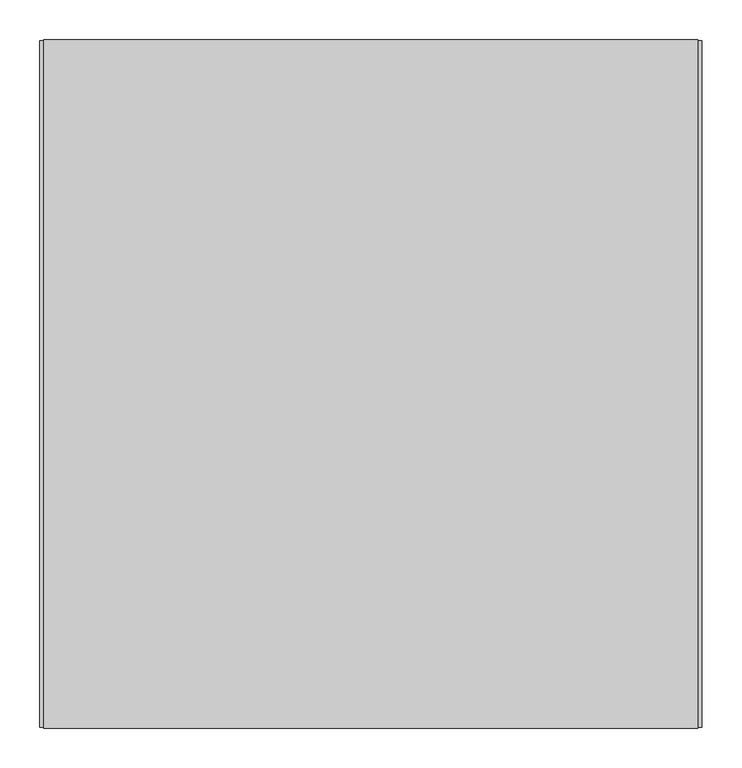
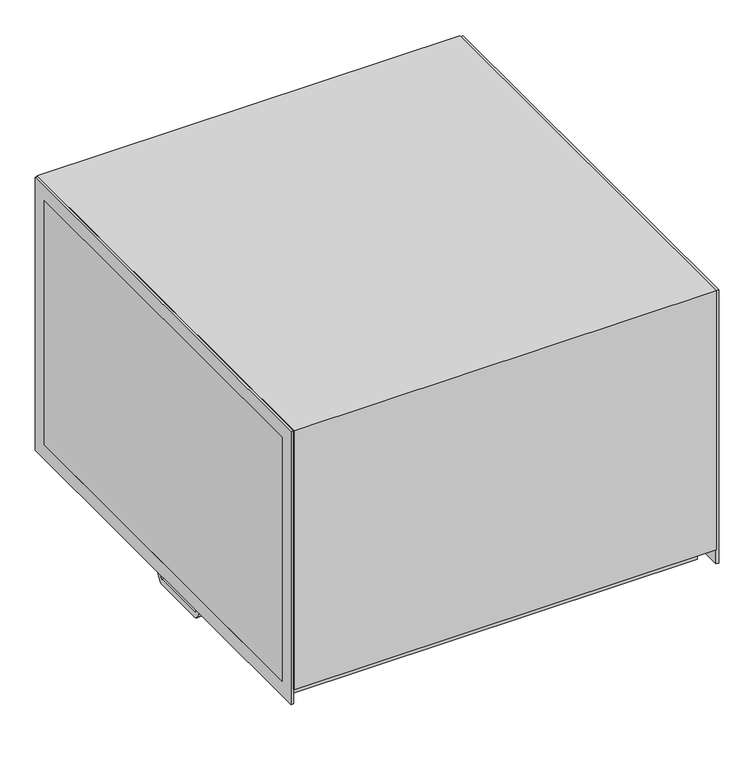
"""IFC4 building model written with IfcOpenShell, lengths in millimetres: unitary equipment geometry, VE-Wentylator-ParaForma-Harmann-DRBI_EC-Nawiewny : 080/50/8500TEC."""

import ifcopenshell
import ifcopenshell.guid

model = None  # the IFC model being written
_history = None  # IfcOwnerHistory: only IFC2X3 demands one
_inside = {}  # id of a spatial element -> (the spatial element, [elements in it])
_under = {}  # id of a project, library or spatial element -> (it, [spatial elements below it])
_declared = {}  # id of a project -> (the project, [libraries it declares])
_typed = {}  # id of a type object -> (the type object, [elements of that type])
_made_of = {}  # id of a material, layer set ... -> (it, [elements and type objects made of it])


def new_model(schema):
    """Start an empty IFC model of exactly this schema.

    Asked for "IFC4X3", IfcOpenShell would pick the latest addendum, in which some entities
    have other attributes; the version numbers below select the first issue.
    IFC2X3 requires an IfcOwnerHistory on every rooted entity: one is made here for all.
    """
    global model, _history
    if schema == "IFC4X3":
        model = ifcopenshell.file(schema_version=(4, 3, 0, 0))
    else:
        model = ifcopenshell.file(schema=schema)
    _inside.clear()
    _under.clear()
    _declared.clear()
    _typed.clear()
    _made_of.clear()
    _history = None
    if model.schema == "IFC2X3":
        org = make("IfcOrganization", Name="unknown")
        user = make(
            "IfcPersonAndOrganization",
            ThePerson=make("IfcPerson", FamilyName="unknown"),
            TheOrganization=org,
        )
        app = make(
            "IfcApplication",
            ApplicationDeveloper=org,
            Version="unknown",
            ApplicationFullName="unknown",
            ApplicationIdentifier="unknown",
        )
        _history = make(
            "IfcOwnerHistory",
            OwningUser=user,
            OwningApplication=app,
            ChangeAction="ADDED",
            CreationDate=0,
        )
    return model


def make(cls, **values):
    """One entity of the class cls with the attributes given. An attribute that is None is left unset."""
    return model.create_entity(
        cls, **{name: value for name, value in values.items() if value is not None}
    )


def rooted(cls, **values):
    """An entity with a GlobalId (a new one), such as an element, a storey or a relation."""
    return make(cls, GlobalId=ifcopenshell.guid.new(), OwnerHistory=_history, **values)


def si_unit(unit_type, name, prefix=None):
    """IfcSIUnit, for example si_unit("LENGTHUNIT", "METRE", prefix="MILLI")."""
    return make("IfcSIUnit", UnitType=unit_type, Prefix=prefix, Name=name)


def assignment(units):
    """IfcUnitAssignment: the units of a project."""
    return None if units is None else make("IfcUnitAssignment", Units=units)


def point(xyz):
    """IfcCartesianPoint."""
    return None if xyz is None else make("IfcCartesianPoint", Coordinates=xyz)


def direction(xyz):
    """IfcDirection."""
    return None if xyz is None else make("IfcDirection", DirectionRatios=xyz)


def frame(location, z_axis=None, x_axis=None):
    """IfcAxis2Placement3D, a coordinate frame: its origin and axes. An axis left out is left unset."""
    return make(
        "IfcAxis2Placement3D",
        Location=point(location),
        Axis=direction(z_axis),
        RefDirection=direction(x_axis),
    )


def frame_2d(location, x_axis=None):
    """IfcAxis2Placement2D, a coordinate frame in the plane: its origin and x axis."""
    return make(
        "IfcAxis2Placement2D", Location=point(location), RefDirection=direction(x_axis)
    )


def origin():
    """The frame at (0, 0, 0) with its axes left unset."""
    return frame((0.0, 0.0, 0.0))


def place(relative_to, where):
    """IfcLocalPlacement: puts the frame where relative to a parent placement (None: the world)."""
    return make(
        "IfcLocalPlacement", PlacementRelTo=relative_to, RelativePlacement=where
    )


def context(
    kind, dimensions, precision=None, world=None, true_north=None, identifier=None
):
    """IfcGeometricRepresentationContext, for example the 3D "Model" context."""
    return make(
        "IfcGeometricRepresentationContext",
        ContextIdentifier=identifier,
        ContextType=kind,
        CoordinateSpaceDimension=dimensions,
        Precision=precision,
        WorldCoordinateSystem=world,
        TrueNorth=true_north,
    )


def project(units=None, contexts=None):
    """IfcProject with its units and contexts."""
    return rooted(
        "IfcProject",
        Name="project",
        RepresentationContexts=contexts,
        UnitsInContext=assignment(units),
    )


def spatial(cls, under=None, at=None, **own):
    """A site, building, storey or space (cls), placed at a placement, below another one or the project."""
    s = rooted(cls, ObjectPlacement=at, **own)
    if under is not None:
        _under.setdefault(under.id(), (under, []))[1].append(s)
    return s


def polyline(points):
    """IfcPolyline through the points."""
    return make("IfcPolyline", Points=[point(p) for p in points])


def circle_curve(where, radius):
    """IfcCircle in the frame where."""
    return make("IfcCircle", Position=where, Radius=radius)


def trimmed(basis, trim1, trim2, sense, master):
    """IfcTrimmedCurve: the piece of a basis curve between two trims."""
    return make(
        "IfcTrimmedCurve",
        BasisCurve=basis,
        Trim1=trim1,
        Trim2=trim2,
        SenseAgreement=sense,
        MasterRepresentation=master,
    )


def segment(curve, same_sense, transition):
    """IfcCompositeCurveSegment."""
    return make(
        "IfcCompositeCurveSegment",
        Transition=transition,
        SameSense=same_sense,
        ParentCurve=curve,
    )


def composite_curve(segments, self_intersect=None):
    """IfcCompositeCurve: segments joined end to end."""
    return make("IfcCompositeCurve", Segments=segments, SelfIntersect=self_intersect)


def outline(outer, holes=None, kind="AREA"):
    """IfcArbitraryClosedProfileDef: a profile drawn as a closed curve; with holes, ...WithVoids."""
    if holes is None:
        return make("IfcArbitraryClosedProfileDef", ProfileType=kind, OuterCurve=outer)
    return make(
        "IfcArbitraryProfileDefWithVoids",
        ProfileType=kind,
        OuterCurve=outer,
        InnerCurves=holes,
    )


def extrude(swept, where, along, depth):
    """IfcExtrudedAreaSolid: the profile swept, set in the frame where, extruded along a direction by depth."""
    return make(
        "IfcExtrudedAreaSolid",
        SweptArea=swept,
        Position=where,
        ExtrudedDirection=direction(along),
        Depth=depth,
    )


def faces_of(points, faces, orient=None, outer=None):
    """IfcFace entities. A face is a list of loops; a loop is a list of indices into points, from 0.

    orient and outer hold one flag for each loop. By default every Orientation is true, the
    first loop of a face is its IfcFaceOuterBound and the others are IfcFaceBound.
    """
    made = []
    for i, loops in enumerate(faces):
        bounds = []
        for j, loop in enumerate(loops):
            is_outer = j == 0 if outer is None else outer[i][j]
            bounds.append(
                make(
                    "IfcFaceOuterBound" if is_outer else "IfcFaceBound",
                    Bound=make("IfcPolyLoop", Polygon=[points[k] for k in loop]),
                    Orientation=True if orient is None else orient[i][j],
                )
            )
        made.append(make("IfcFace", Bounds=bounds))
    return made


def faceted_brep(points, faces, orient=None, outer=None, voids=None):
    """IfcFacetedBrep: a solid bounded by flat faces; with voids (closed shells), ...WithVoids."""
    shared = [point(p) for p in points]
    hull = make("IfcClosedShell", CfsFaces=faces_of(shared, faces, orient, outer))
    if voids is None:
        return make("IfcFacetedBrep", Outer=hull)
    return make(
        "IfcFacetedBrepWithVoids",
        Outer=hull,
        Voids=[
            make(cls, CfsFaces=faces_of(shared, fs, o, b)) for cls, fs, o, b in voids
        ],
    )


def shape(context_of_items, identifier, shape_type, items):
    """IfcShapeRepresentation: the items that make up one representation, for example the "Body"."""
    return make(
        "IfcShapeRepresentation",
        ContextOfItems=context_of_items,
        RepresentationIdentifier=identifier,
        RepresentationType=shape_type,
        Items=items,
    )


def source(mapping_origin, context_of_items, identifier, shape_type, items):
    """IfcRepresentationMap: a shape defined once, which mapped items show again and again."""
    return make(
        "IfcRepresentationMap",
        MappingOrigin=mapping_origin,
        MappedRepresentation=shape(context_of_items, identifier, shape_type, items),
    )


def transform(
    local_origin,
    x_axis=None,
    y_axis=None,
    z_axis=None,
    scale=None,
    scale2=None,
    scale3=None,
    uniform=True,
):
    """IfcCartesianTransformationOperator3D, or its non-uniform kind. x_axis, y_axis, z_axis: its Axis1, 2, 3."""
    if uniform:
        return make(
            "IfcCartesianTransformationOperator3D",
            Axis1=direction(x_axis),
            Axis2=direction(y_axis),
            LocalOrigin=point(local_origin),
            Scale=scale,
            Axis3=direction(z_axis),
        )
    return make(
        "IfcCartesianTransformationOperator3DnonUniform",
        Axis1=direction(x_axis),
        Axis2=direction(y_axis),
        LocalOrigin=point(local_origin),
        Scale=scale,
        Axis3=direction(z_axis),
        Scale2=scale2,
        Scale3=scale3,
    )


def mapped(mapping_source, mapping_target):
    """IfcMappedItem: shows the shape of a source again, moved by a transform."""
    return make(
        "IfcMappedItem", MappingSource=mapping_source, MappingTarget=mapping_target
    )


def made_of(thing, what):
    """Note that an element or type object is made of a material, layer set ...; save() writes the relation."""
    if what is not None:
        _made_of.setdefault(what.id(), (what, []))[1].append(thing)
    return thing


def element(
    cls,
    number,
    at=None,
    inside=None,
    cuts=None,
    type_object=None,
    material=None,
    context=None,
    identifier="Body",
    shape_type=None,
    held_by="IfcProductDefinitionShape",
    body=None,
    shapes=None,
    **own,
):
    """One element of the class cls, such as IfcWall. Its Tag is "e" and its number.

    at: its placement. inside: the storey or other place that contains it. cuts: it is an
    opening in that element (IfcRelVoidsElement). A single representation is given by context,
    identifier, shape_type and body (its items); several are given by shapes. held_by: the class
    of the entity that holds the representations. save() writes the other relations.
    """
    e = rooted(cls, Tag="e%d" % number, ObjectPlacement=at, **own)
    if body is not None:
        shapes = [shape(context, identifier, shape_type, body)]
    if shapes is not None:
        e.Representation = make(held_by, Representations=shapes)
    if inside is not None:
        _inside.setdefault(inside.id(), (inside, []))[1].append(e)
    if cuts is not None:
        rooted(
            "IfcRelVoidsElement", RelatingBuildingElement=cuts, RelatedOpeningElement=e
        )
    if type_object is not None:
        _typed.setdefault(type_object.id(), (type_object, []))[1].append(e)
    return made_of(e, material)


def aggregate(whole, parts):
    """IfcRelAggregates: a whole, such as a stair, and the parts it consists of."""
    return rooted("IfcRelAggregates", RelatingObject=whole, RelatedObjects=parts)


def save(model, path):
    """Write the relations noted so far, then the file.

    IfcRelAggregates (storeys below a building ...), IfcRelContainedInSpatialStructure (elements
    in a storey), IfcRelDefinesByType, IfcRelAssociatesMaterial and IfcRelDeclares: one each for
    every whole, place, type object, material and project.
    """
    for whole, parts in _under.values():
        aggregate(whole, parts)
    for where, things in _inside.values():
        rooted(
            "IfcRelContainedInSpatialStructure",
            RelatedElements=things,
            RelatingStructure=where,
        )
    for kind, things in _typed.values():
        rooted("IfcRelDefinesByType", RelatedObjects=things, RelatingType=kind)
    for what, things in _made_of.values():
        rooted("IfcRelAssociatesMaterial", RelatedObjects=things, RelatingMaterial=what)
    for by, libraries in _declared.values():
        rooted("IfcRelDeclares", RelatingContext=by, RelatedDefinitions=libraries)
    model.write(path)


def unitary_equipment_093180e0(model_context):
    return source(origin(), model_context, "Body", "SolidModel", [
        faceted_brep([(-402.7, -395.5, -285.5), (-402.7, -395.5, -250.0), (-402.7, 395.5, -250.0), (-402.7, 395.5, -285.5), (393.3, -395.5, -285.5), (393.3, 395.5, -285.5), (393.3, 395.5, -250.0), (393.3, -395.5, -250.0), (-410.0, -431.0, -250.0), (-410.0, -431.0, 281.0), (-410.0, 431.0, 281.0), (-410.0, 431.0, -250.0), (-410.0, 400.0, -250.0), (-410.0, 400.0, 250.0), (-410.0, -400.0, 250.0), (-410.0, -400.0, -250.0), (410.0, 431.0, -250.0), (410.0, 431.0, 281.0), (410.0, -431.0, 281.0), (410.0, -431.0, -250.0), (410.0, -400.0, -250.0), (410.0, -400.0, 250.0), (410.0, 400.0, 250.0), (410.0, 400.0, -250.0), (-415.0, -400.0, -250.0), (-415.0, 400.0, -250.0), (415.0, 400.0, -250.0), (415.0, -400.0, -250.0), (-415.0, -400.0, 250.0), (-415.0, 400.0, 250.0), (415.0, 400.0, 250.0), (415.0, -400.0, 250.0)], [[[0, 1, 2, 3]], [[4, 5, 6, 7]], [[1, 0, 4, 7]], [[3, 2, 6, 5]], [[0, 3, 5, 4]], [[8, 9, 10, 11, 12, 13, 14, 15]], [[16, 17, 18, 19, 20, 21, 22, 23]], [[9, 8, 19, 18]], [[10, 9, 18, 17]], [[11, 10, 17, 16]], [[19, 8, 15, 24, 25, 12, 11, 16, 23, 26, 27, 20], [2, 1, 7, 6]], [[24, 28, 29, 25]], [[28, 24, 15, 14]], [[29, 28, 14, 13]], [[25, 29, 13, 12]], [[27, 26, 30, 31]], [[27, 31, 21, 20]], [[31, 30, 22, 21]], [[30, 26, 23, 22]]]),
        extrude(outline(polyline([(-430.0, -280.0), (-430.0, 280.0), (430.0, 280.0), (430.0, -280.0), (-430.0, -280.0)]), holes=[polyline([(-400.0, -250.0), (400.0, -250.0), (400.0, 250.0), (-400.0, 250.0), (-400.0, -250.0)])]), frame((410.0, 0.0, 0.0), z_axis=(1.0, 0.0, 0.0), x_axis=(0.0, 1.0, 0.0)), (0.0, 0.0, 1.0), 5.0),
        extrude(outline(polyline([(-430.0, -280.0), (-430.0, 280.0), (430.0, 280.0), (430.0, -280.0), (-430.0, -280.0)]), holes=[polyline([(-400.0, -250.0), (400.0, -250.0), (400.0, 250.0), (-400.0, 250.0), (-400.0, -250.0)])]), frame((-415.0, 0.0, 0.0), z_axis=(1.0, 0.0, 0.0), x_axis=(0.0, 1.0, 0.0)), (0.0, 0.0, 1.0), 5.0),
        extrude(outline(composite_curve([segment(polyline([(-85.0, -298.5), (-85.0, -285.5), (-60.0, -285.5), (-60.0, -322.5)]), True, "CONTINUOUS"), segment(trimmed(circle_curve(frame_2d((-55.0, -322.5)), 5.0), [point((-60.0, -322.5))], [point((-55.0, -327.5))], True, "CARTESIAN"), True, "CONTINUOUS"), segment(polyline([(-55.0, -327.5), (55.0, -327.5)]), True, "CONTINUOUS"), segment(trimmed(circle_curve(frame_2d((55.0, -322.5)), 5.0), [point((55.0, -327.5))], [point((60.0, -322.5))], True, "CARTESIAN"), True, "CONTINUOUS"), segment(polyline([(60.0, -322.5), (60.0, -285.5), (85.0, -285.5), (85.0, -298.5), (61.4754291, -335.1983306)]), True, "CONTINUOUS"), segment(trimmed(circle_curve(frame_2d((57.2660334, -332.5)), 5.0), [point((61.4754291, -335.1983306))], [point((57.2660334, -337.5))], False, "CARTESIAN"), True, "CONTINUOUS"), segment(polyline([(57.2660334, -337.5), (-57.2660334, -337.5)]), True, "CONTINUOUS"), segment(trimmed(circle_curve(frame_2d((-57.2660334, -332.5)), 5.0), [point((-57.2660334, -337.5))], [point((-61.4754291, -335.1983306))], False, "CARTESIAN"), True, "CONTINUOUS"), segment(polyline([(-61.4754291, -335.1983306), (-85.0, -298.5)]), True, "CONTINUOUS")], self_intersect=False)), frame((-385.4, 0.0, 0.0), z_axis=(1.0, 0.0, 0.0), x_axis=(0.0, 1.0, 0.0)), (0.0, 0.0, 1.0), 28.0),
        extrude(outline(composite_curve([segment(polyline([(380.2, -27.5), (295.2, -27.5)]), True, "CONTINUOUS"), segment(trimmed(circle_curve(frame_2d((295.2, -22.5)), 5.0), [point((295.2, -27.5))], [point((290.2, -22.5))], False, "CARTESIAN"), True, "CONTINUOUS"), segment(polyline([(290.2, -22.5), (290.2, 77.5)]), True, "CONTINUOUS"), segment(trimmed(circle_curve(frame_2d((295.2, 77.5)), 5.0), [point((290.2, 77.5))], [point((295.2, 82.5))], False, "CARTESIAN"), True, "CONTINUOUS"), segment(polyline([(295.2, 82.5), (380.2, 82.5)]), True, "CONTINUOUS"), segment(trimmed(circle_curve(frame_2d((380.2, 77.5)), 5.0), [point((380.2, 82.5))], [point((385.2, 77.5))], False, "CARTESIAN"), True, "CONTINUOUS"), segment(polyline([(385.2, 77.5), (385.2, -22.5)]), True, "CONTINUOUS"), segment(trimmed(circle_curve(frame_2d((380.2, -22.5)), 5.0), [point((385.2, -22.5))], [point((380.2, -27.5))], False, "CARTESIAN"), True, "CONTINUOUS")], self_intersect=False)), frame((0.0, 0.0, -335.0), z_axis=(0.0, 0.0, 1.0), x_axis=(1.0, 0.0, 0.0)), (0.0, 0.0, 1.0), 49.5),
    ])


if __name__ == "__main__":
    model = new_model("IFC4")
    model_context = context("Model", 3, world=origin())
    ifc_project = project(units=[si_unit("LENGTHUNIT", "METRE", prefix="MILLI")], contexts=[model_context])
    site = spatial("IfcSite", under=ifc_project)
    building = spatial("IfcBuilding", under=site)
    placement = place(None, origin())
    unitary_equipment_shape = unitary_equipment_093180e0(model_context)
    element("IfcUnitaryEquipment", 1, ObjectType="VE-Wentylator-ParaForma-Harmann-DRBI_EC-Nawiewny : 080/50/8500TEC", at=placement, inside=building, context=model_context, shape_type="MappedRepresentation", body=[
        mapped(unitary_equipment_shape, transform((0.0, 0.0, 0.0), x_axis=(1.0, 0.0, 0.0), y_axis=(0.0, 1.0, 0.0), z_axis=(0.0, 0.0, 1.0))),
    ])
    save(model, "model.ifc")
